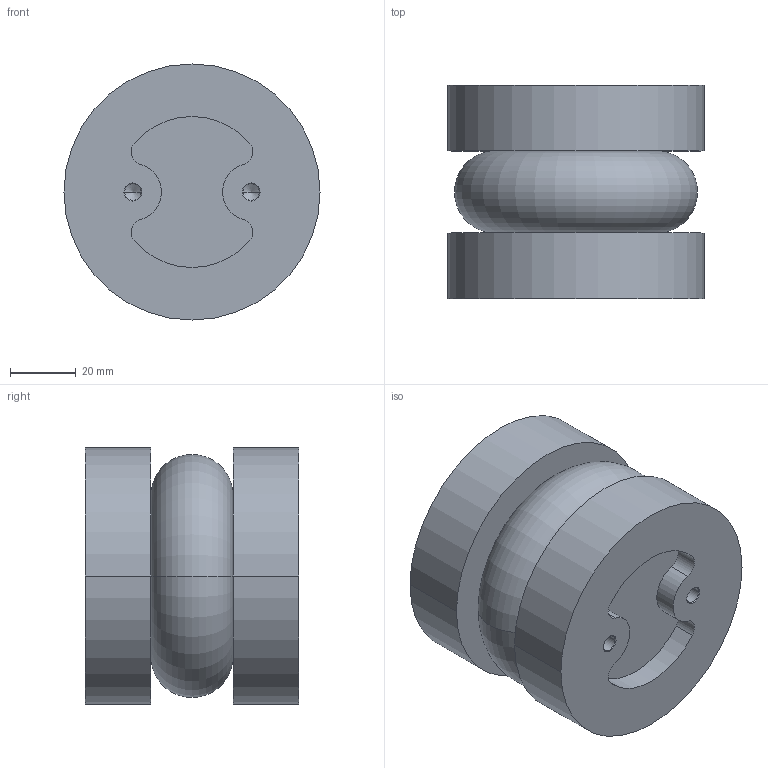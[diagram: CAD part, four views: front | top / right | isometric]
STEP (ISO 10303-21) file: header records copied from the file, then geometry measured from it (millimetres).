
FILE_DESCRIPTION((''),'2;1');
FILE_NAME('R412020583_MAX','2015-05-07T',('mla1hc'),(''),'PRO/ENGINEER BY PARAMETRIC TECHNOLOGY CORPORATION, 2011490','PRO/ENGINEER BY PARAMETRIC TECHNOLOGY CORPORATION, 2011490','');
FILE_SCHEMA(('AUTOMOTIVE_DESIGN_CC2 { 1 2 10303 214 -1 1 5 2 }'));
Length unit declared in the file: millimetre
Products named in the file (1): R412020583_MAX
Bounding box: 78 x 65 x 78 mm (x, y, z)
Volume: 265096.7 mm3; surface area: 37695.7 mm2
Topology: 1 solids, 1 shells, 59 faces, 134 edges, 80 vertices
Faces by surface type: cylinder 32, cone 16, plane 9, torus 2
Entity records: 1631 total; most frequent: DIRECTION 322, CARTESIAN_POINT 265, ORIENTED_EDGE 252, AXIS2_PLACEMENT_3D 137, EDGE_CURVE 126, VERTEX_POINT 80, CIRCLE 78, EDGE_LOOP 70
